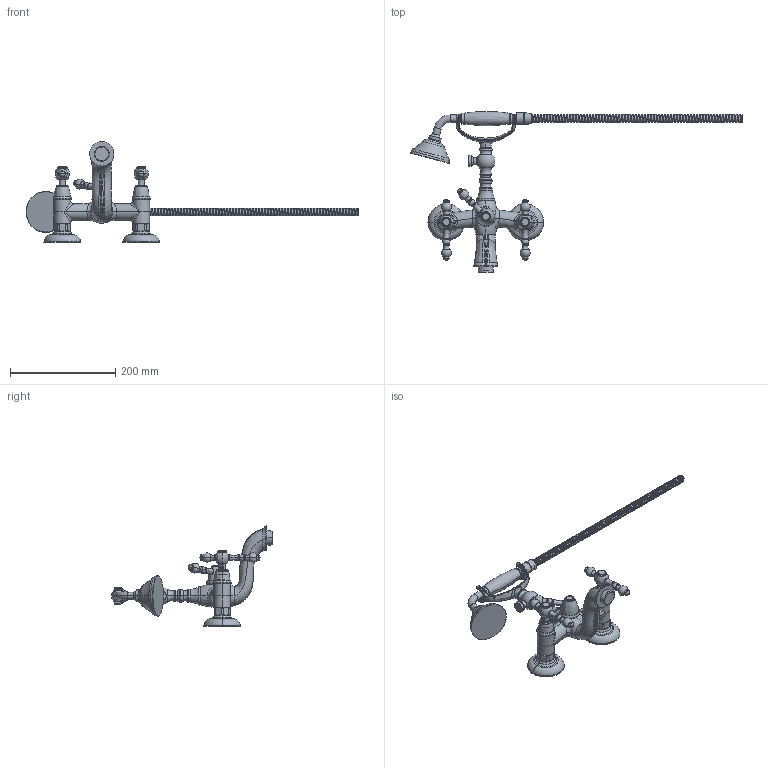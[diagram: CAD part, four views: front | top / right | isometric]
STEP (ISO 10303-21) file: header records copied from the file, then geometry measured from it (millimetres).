
FILE_DESCRIPTION((''),'2;1');
FILE_NAME('F5054_FILE_3D','2013-06-20T',('ivanv'),(''),'PRO/ENGINEER BY PARAMETRIC TECHNOLOGY CORPORATION, 2012130','PRO/ENGINEER BY PARAMETRIC TECHNOLOGY CORPORATION, 2012130','');
FILE_SCHEMA(('CONFIG_CONTROL_DESIGN'));
Products named in the file (1): F5054_FILE_3D
Bounding box: 631.8 x 306.44 x 191.75 mm (x, y, z)
Volume: 728064.1 mm3; surface area: 199020.5 mm2
Topology: 5 solids, 9 shells, 1429 faces, 3445 edges, 2076 vertices
Faces by surface type: plane 382, cylinder 379, bspline 255, torus 230, cone 149, sphere 34
Entity records: 105120 total; most frequent: CARTESIAN_POINT 73761, ORIENTED_EDGE 6870, DIRECTION 6144, EDGE_CURVE 3435, AXIS2_PLACEMENT_3D 2518, VERTEX_POINT 2076, EDGE_LOOP 1491, FACE_OUTER_BOUND 1429
